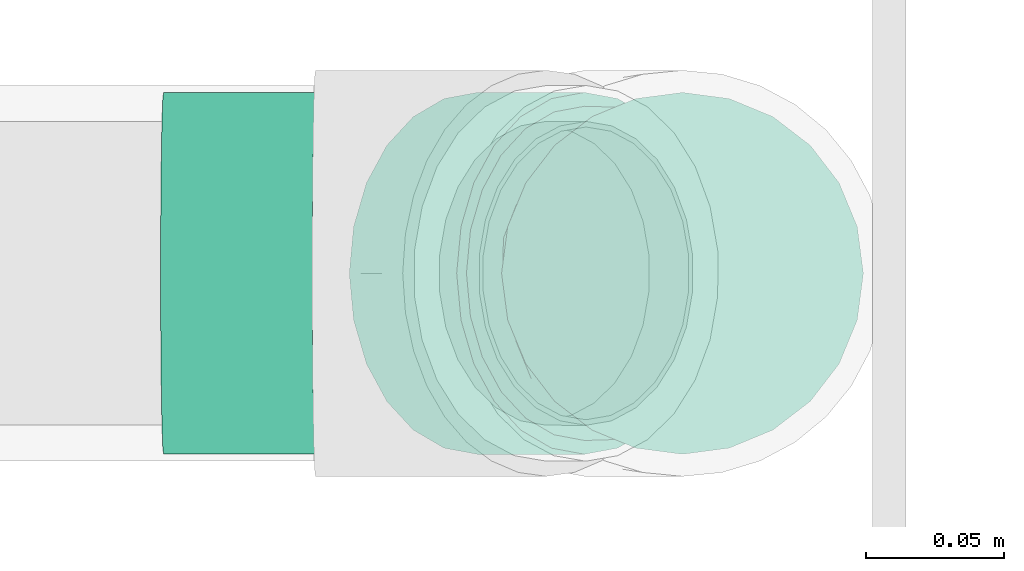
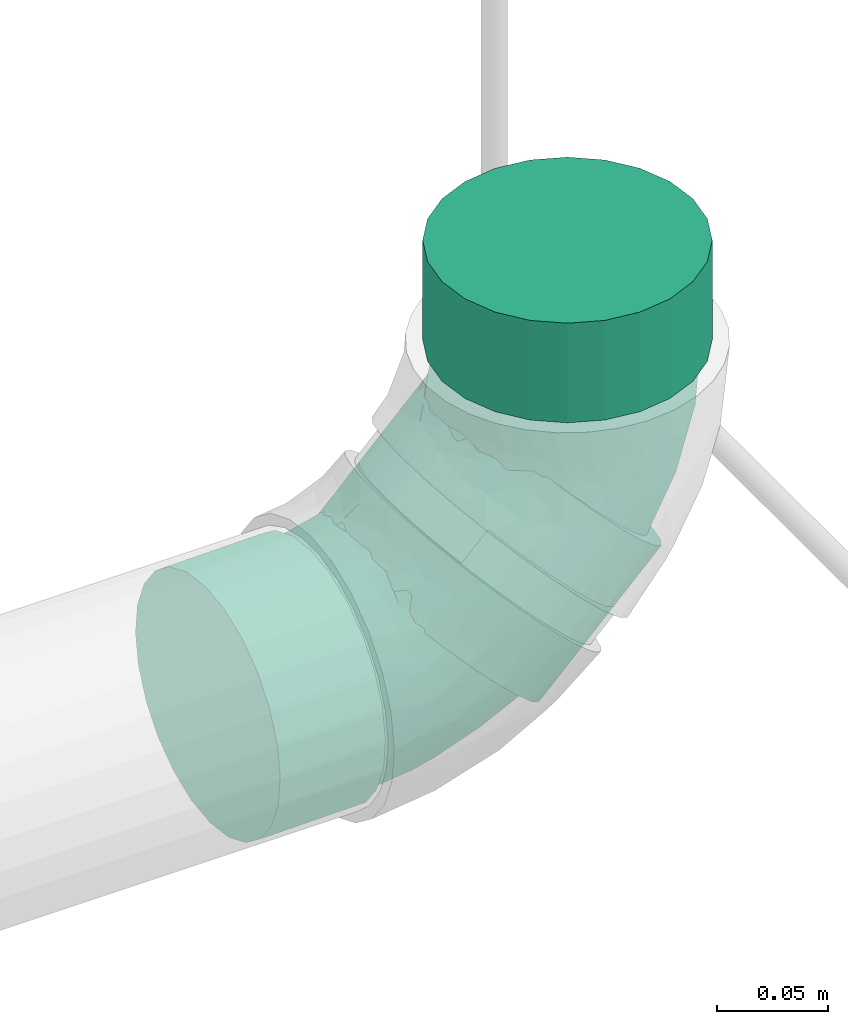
# One storey, part 66 of 156: 2 flow fittings.
"""IFC2X3 building model written with IfcOpenShell, lengths in millimetres."""

from ifc_helpers import new_model, entity, si_unit, converted_unit, derived_unit, direction, frame, origin_with_axes, place, context, subcontext, project, spatial, open_shell, surface_model, source, transform, mapped, type_object, element, save


model = new_model("IFC2X3")

# Units and contexts
model_context = context("Model", 3, precision=0.01, world=frame((0.0, 4.29681676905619e-09, 0.0)), true_north=direction((4.01073788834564e-13, 1.0)))
plan_context = context("Plan", 3, precision=0.01, world=frame((0.0, 4.29681676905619e-09, 0.0)), true_north=direction((4.01073788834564e-13, 1.0)))
body_context = subcontext(model_context, "Body", "Model", "MODEL_VIEW")
ifc_project = project(units=[converted_unit("PLANEANGLEUNIT", "DEGREE", entity("IfcPositiveLengthMeasure", 0.0174532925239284), si_unit("PLANEANGLEUNIT", "RADIAN"), dimensions=[0, 0, 0, 0, 0, 0, 0]), si_unit("AREAUNIT", "SQUARE_METRE"), si_unit("LENGTHUNIT", "METRE", prefix="MILLI"), si_unit("MASSUNIT", "GRAM", prefix="KILO"), si_unit("POWERUNIT", "WATT"), si_unit("PRESSUREUNIT", "PASCAL", prefix="KILO"), si_unit("FORCEUNIT", "NEWTON", prefix="KILO"), si_unit("ELECTRICVOLTAGEUNIT", "VOLT"), si_unit("ELECTRICCURRENTUNIT", "AMPERE"), si_unit("THERMODYNAMICTEMPERATUREUNIT", "DEGREE_CELSIUS"), si_unit("TIMEUNIT", "SECOND"), si_unit("VOLUMEUNIT", "CUBIC_METRE"), derived_unit("LINEARVELOCITYUNIT", [(si_unit("LENGTHUNIT", "METRE"), 1), (si_unit("TIMEUNIT", "SECOND"), -1)]), derived_unit("VOLUMETRICFLOWRATEUNIT", [(si_unit("VOLUMEUNIT", "CUBIC_METRE"), 1), (si_unit("TIMEUNIT", "SECOND"), -1)]), derived_unit("THERMALTRANSMITTANCEUNIT", [(si_unit("POWERUNIT", "WATT"), 1), (si_unit("THERMODYNAMICTEMPERATUREUNIT", "KELVIN"), -1), (si_unit("AREAUNIT", "SQUARE_METRE"), -1)]), derived_unit("SOUNDPRESSUREUNIT", [(si_unit("PRESSUREUNIT", "PASCAL"), 1)])], contexts=[model_context, plan_context])

# Site, building, storey
site_placement = place(None, frame((0.0, -4.29681676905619e-09, 0.0), z_axis=(0.0, 0.0, 1.0), x_axis=(1.0, 0.0, 0.0)))
site = spatial("IfcSite", under=ifc_project, at=site_placement, CompositionType="ELEMENT")
building_placement = place(site_placement, frame((0.0, 4.29681676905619e-09, 0.0), z_axis=(0.0, 0.0, 1.0), x_axis=(1.0, 0.0, 0.0)))
building = spatial("IfcBuilding", under=site, at=building_placement, Name="mc-building", CompositionType="ELEMENT")
storey_placement = place(building_placement, frame((0.0, 0.0, 205200.0), z_axis=(0.0, 0.0, 1.0), x_axis=(1.0, 0.0, 0.0)))
storey = spatial("IfcBuildingStorey", under=building, at=storey_placement, Name="Nivå D + 1,2 m", CompositionType="ELEMENT", Elevation=205200.0)

# Flow fittings
pipe_fitting_type = type_object("IfcPipeFittingType", Name="magi_sewer_bend_001", PredefinedType="BEND")
shared_shape_1 = source(origin_with_axes(), body_context, "Body", "SurfaceModel", [
    surface_model("IfcShellBasedSurfaceModel", [(-105.11984, -63.26814, -16.95265), (-105.11984, -16.95265, -63.26814), (-105.11984, -32.75, -56.72466), (-105.11984, -56.72466, -32.75), (-105.11984, -46.3155, -46.3155), (-105.11984, 46.3155, -46.3155), (-105.11984, -65.5, 0.0), (-105.11984, 32.75, -56.72466), (-105.11984, 16.95265, -63.26814), (-105.11984, 0.0, -65.5), (-105.11984, 63.26814, -16.95265), (-105.11984, 56.72466, -32.75), (-105.11984, -63.26814, 16.95265), (-105.11984, -56.72466, 32.75), (-105.11984, -46.3155, 46.3155), (-105.11984, 65.5, 0.0), (-105.11984, -16.95265, 63.26814), (-105.11984, -32.75, 56.72466), (-105.11984, 16.95265, 63.26814), (-105.11984, 0.0, 65.5), (-105.11984, 56.72466, 32.75), (-105.11984, 63.26814, 16.95265), (-105.11984, 46.3155, 46.3155), (-105.11984, 32.75, 56.72466), (-50.11984, -16.95265, 63.26814), (-50.11984, 16.95265, 63.26814), (-50.11984, 0.0, 65.5), (-50.11984, -46.3155, 46.3155), (-50.11984, -32.75, 56.72466), (-50.11984, -56.72466, 32.75), (-50.11984, -63.26814, 16.95265), (-50.11984, 65.5, 0.0), (-50.11984, 46.3155, 46.3155), (-50.11984, 32.75, 56.72466), (-50.11984, 56.72466, 32.75), (-50.11984, 63.26814, 16.95265), (-50.11984, -63.26814, -16.95265), (-50.11984, -16.95265, -63.26814), (-50.11984, -56.72466, -32.75), (-50.11984, -32.75, -56.72466), (-50.11984, -46.3155, -46.3155), (-50.11984, 46.3155, -46.3155), (-50.11984, 63.26814, -16.95265), (-50.11984, 56.72466, -32.75), (-50.11984, 32.75, -56.72466), (-50.11984, 16.95265, -63.26814), (-50.11984, 0.0, -65.5), (-50.11984, -65.5, 0.0), (29.59362, 119.06829, 16.95265), (34.22056, 114.44134, 32.75), (41.58095, 107.08095, 46.3155), (51.17321, 97.4887, 56.72466), (28.01546, 120.64645, 0.0), (62.34362, 86.31829, 63.26814), (74.33095, 74.33095, -65.5), (34.22056, 114.44134, -32.75), (29.59362, 119.06829, -16.95265), (41.58095, 107.08095, -46.3155), (62.34362, 86.31829, -63.26814), (51.17321, 97.4887, -56.72466), (74.33095, 74.33095, 65.5), (107.08095, 41.58095, -46.3155), (86.31829, 62.34362, 63.26814), (97.4887, 51.17321, 56.72466), (107.08095, 41.58095, 46.3155), (120.64645, 28.01546, 0.0), (114.44134, 34.22056, 32.75), (119.06829, 29.59362, 16.95265), (97.4887, 51.17321, -56.72466), (86.31829, 62.34362, -63.26814), (119.06829, 29.59362, -16.95265), (114.44134, 34.22056, -32.75), (81.75557, -10.87541, 0.0), (80.17741, -9.29725, 16.95265), (75.55048, -4.67032, 32.75), (68.19008, 2.69008, 46.3155), (58.59783, 12.28233, 56.72466), (47.42741, 23.45275, 63.26814), (23.45275, 47.42741, -63.26814), (35.44008, 35.44008, -65.5), (80.17741, -9.29725, -16.95265), (68.19008, 2.69008, -46.3155), (75.55048, -4.67032, -32.75), (58.59783, 12.28233, -56.72466), (47.42741, 23.45275, -63.26814), (23.45275, 47.42741, 63.26814), (12.28233, 58.59783, 56.72466), (2.69008, 68.19008, 46.3155), (-4.67032, 75.55048, 32.75), (-9.29725, 80.17741, 16.95265), (-10.87541, 81.75557, 0.0), (2.69008, 68.19008, -46.3155), (12.28233, 58.59783, -56.72466), (-9.29725, 80.17741, -16.95265), (-4.67032, 75.55048, -32.75), (35.44008, 35.44008, 65.5), (-50.11984, 30.25, -52.39454), (-50.11984, 15.65855, -58.43851), (-50.11984, 0.0, -60.5), (-50.11984, 42.77996, -42.77996), (-50.11984, 58.43851, -15.65855), (-50.11984, 52.39454, -30.25), (-50.11984, -60.5, 0.0), (-50.11984, -42.77996, -42.77996), (-50.11984, -52.39454, -30.25), (-50.11984, -30.25, -52.39454), (-50.11984, -15.65855, -58.43851), (-50.11984, -58.43851, -15.65855), (-50.11984, -42.77996, 42.77996), (-50.11984, 58.43851, 15.65855), (-50.11984, 52.39454, 30.25), (-50.11984, 15.65855, 58.43851), (-50.11984, 30.25, 52.39454), (-50.11984, 42.77996, 42.77996), (-50.11984, -30.25, 52.39454), (-50.11984, -58.43851, 15.65855), (-50.11984, -52.39454, 30.25), (-50.11984, -15.65855, 58.43851), (-50.11984, 0.0, 60.5), (-50.11984, 60.5, 0.0), (35.44008, 35.44008, -60.5), (24.36781, 46.51235, -58.43851), (14.0501, 56.83006, -52.39454), (-5.88219, 76.76235, -15.65855), (5.19008, 65.69008, -42.77996), (-1.60845, 72.48861, -30.25), (46.51235, 24.36781, -58.43851), (65.69008, 5.19008, 42.77996), (56.83006, 14.0501, -52.39454), (72.48861, -1.60845, -30.25), (65.69008, 5.19008, -42.77996), (78.22004, -7.33988, 0.0), (76.76235, -5.88219, -15.65855), (-5.88219, 76.76235, 15.65855), (24.36781, 46.51235, 58.43851), (5.19008, 65.69008, 42.77996), (-1.60845, 72.48861, 30.25), (14.0501, 56.83006, 52.39454), (76.76235, -5.88219, 15.65855), (72.48861, -1.60845, 30.25), (56.83006, 14.0501, 52.39454), (35.44008, 35.44008, 60.5), (46.51235, 24.36781, 58.43851), (-7.33988, 78.22004, 0.0), (15.40898, -37.20057, 33.71482), (-13.38469, -34.19321, 46.68416), (-19.53618, -46.27104, 35.42508), (-20.21421, -56.56285, 0.0), (-3.14418, -54.31554, 0.0), (-12.91334, -55.73755, 10.33096), (46.53273, -18.9044, 35.42508), (-23.97238, -22.18485, 55.29389), (6.21199, -14.99708, 54.53161), (1.79579, 36.37132, 56.46814), (10.937, 28.63799, 59.62004), (-18.05654, -5.82509, 59.69848), (-5.75437, 13.89228, 60.2874), (-30.31328, 8.38356, 60.13285), (-17.18515, 41.48861, 49.39252), (-26.68033, 50.73817, 38.17957), (32.63809, 1.26397, 55.29389), (-23.24601, 25.1757, 56.55898), (23.34807, -39.59646, 23.84351), (-10.84785, -52.34167, 21.0101), (18.78371, -45.3479, 13.14971), (-24.92328, 60.17012, 24.85601), (48.54351, -30.28129, 10.33096), (54.28958, -25.70237, 0.0), (-24.23293, 64.82746, 12.71177), (44.68174, -29.34056, 21.0101), (16.88687, 8.64894, 59.69848), (33.64265, -14.71385, 46.68416), (-26.96749, 65.10529, 0.0), (10.1548, -24.51586, 48.24539), (18.74299, -45.24957, 0.0), (40.63016, -36.18361, 0.0), (-18.05654, -5.82509, -59.69848), (-12.91334, -55.73755, -10.33096), (18.78371, -45.3479, -13.1497), (16.88687, 8.64894, -59.69848), (-26.98822, 24.44859, -56.46814), (-27.98374, 12.51649, -59.62004), (-17.01146, 54.74315, -38.17957), (33.64265, -14.71385, -46.68416), (-24.92328, 60.17012, -24.85601), (44.68174, -29.34056, -21.0101), (-28.70466, 62.9752, -12.71176), (-1.3645, 34.23932, -56.55898), (-10.84785, -52.34167, -21.0101), (-17.18515, 41.48861, -49.39253), (-19.53618, -46.27104, -35.42508), (-13.38469, -34.19321, -46.68416), (10.1548, -24.51586, -48.24539), (15.40898, -37.20057, -33.71482), (-23.97238, -22.18485, -55.29389), (32.63809, 1.26397, -55.29389), (6.21199, -14.99708, -54.53161), (48.54351, -30.28129, -10.33096), (15.50665, 27.3628, -60.13285), (11.48935, -44.50851, -23.84351), (46.53273, -18.9044, -35.42508), (-5.75437, 13.89228, -60.2874)], [open_shell([[[0, 1, 2]], [[3, 2, 4]], [[1, 0, 5]], [[0, 2, 3]], [[5, 0, 6]], [[1, 7, 8]], [[8, 9, 1]], [[5, 10, 11]], [[1, 5, 7]], [[6, 10, 5]], [[6, 12, 10]], [[12, 13, 14]], [[10, 14, 15]], [[15, 14, 16]], [[16, 14, 17]], [[18, 16, 19]], [[15, 20, 21]], [[20, 15, 22]], [[22, 18, 23]], [[18, 22, 15]], [[15, 16, 18]], [[14, 10, 12]], [[24, 25, 26]], [[27, 24, 28]], [[27, 29, 30]], [[24, 27, 31]], [[30, 31, 27]], [[25, 32, 33]], [[25, 24, 32]], [[34, 31, 35]], [[31, 34, 32]], [[24, 31, 32]], [[30, 36, 31]], [[31, 36, 37]], [[37, 36, 38]], [[39, 37, 38]], [[39, 38, 40]], [[37, 41, 31]], [[42, 41, 43]], [[31, 41, 42]], [[37, 44, 41]], [[37, 45, 44]], [[46, 45, 37]], [[36, 30, 47]], [[42, 10, 31]], [[43, 11, 42]], [[45, 46, 8]], [[41, 5, 43]], [[42, 11, 10]], [[10, 15, 31]], [[7, 44, 8]], [[7, 5, 41]], [[44, 45, 8]], [[5, 11, 43]], [[41, 44, 7]], [[46, 9, 8]], [[1, 37, 39]], [[40, 2, 39]], [[3, 38, 36]], [[40, 38, 4]], [[0, 36, 47]], [[37, 1, 9]], [[39, 2, 1]], [[40, 4, 2]], [[38, 3, 4]], [[0, 3, 36]], [[47, 6, 0]], [[37, 9, 46]], [[30, 12, 47]], [[29, 13, 30]], [[28, 17, 27]], [[27, 14, 29]], [[30, 13, 12]], [[12, 6, 47]], [[19, 16, 24]], [[16, 17, 28]], [[14, 27, 17]], [[14, 13, 29]], [[24, 16, 28]], [[24, 26, 19]], [[18, 25, 33]], [[32, 23, 33]], [[20, 34, 35]], [[32, 34, 22]], [[21, 35, 31]], [[25, 18, 19]], [[33, 23, 18]], [[32, 22, 23]], [[34, 20, 22]], [[21, 20, 35]], [[31, 15, 21]], [[25, 19, 26]], [[48, 49, 50]], [[48, 50, 51]], [[52, 51, 53]], [[51, 52, 48]], [[53, 54, 52]], [[52, 55, 56]], [[55, 52, 57]], [[57, 58, 59]], [[58, 57, 52]], [[58, 52, 54]], [[53, 60, 61]], [[62, 63, 64]], [[62, 64, 65]], [[66, 67, 65]], [[66, 65, 64]], [[62, 65, 61]], [[54, 68, 69]], [[68, 54, 61]], [[61, 70, 71]], [[54, 53, 61]], [[65, 70, 61]], [[61, 60, 62]], [[72, 73, 74]], [[72, 74, 75]], [[75, 76, 77]], [[72, 75, 78]], [[79, 72, 78]], [[80, 81, 82]], [[80, 72, 81]], [[83, 79, 84]], [[81, 72, 83]], [[72, 79, 83]], [[78, 75, 77]], [[78, 77, 85]], [[86, 78, 85]], [[87, 88, 89]], [[86, 87, 90]], [[87, 89, 90]], [[78, 91, 92]], [[91, 78, 93]], [[91, 93, 94]], [[93, 78, 90]], [[78, 86, 90]], [[85, 77, 95]], [[78, 58, 79]], [[92, 59, 78]], [[93, 90, 56]], [[91, 57, 92]], [[78, 59, 58]], [[58, 54, 79]], [[55, 94, 56]], [[55, 57, 91]], [[94, 93, 56]], [[57, 59, 92]], [[91, 94, 55]], [[90, 52, 56]], [[48, 89, 88]], [[87, 49, 88]], [[51, 86, 85]], [[87, 86, 50]], [[53, 85, 95]], [[89, 48, 52]], [[88, 49, 48]], [[87, 50, 49]], [[86, 51, 50]], [[53, 51, 85]], [[95, 60, 53]], [[89, 52, 90]], [[77, 62, 95]], [[76, 63, 77]], [[74, 66, 75]], [[75, 64, 76]], [[77, 63, 62]], [[62, 60, 95]], [[65, 67, 73]], [[67, 66, 74]], [[64, 75, 66]], [[64, 63, 76]], [[73, 67, 74]], [[73, 72, 65]], [[70, 80, 82]], [[81, 71, 82]], [[68, 83, 84]], [[81, 83, 61]], [[69, 84, 79]], [[80, 70, 65]], [[82, 71, 70]], [[81, 61, 71]], [[83, 68, 61]], [[69, 68, 84]], [[79, 54, 69]], [[80, 65, 72]], [[96, 97, 98]], [[99, 96, 98]], [[100, 101, 99]], [[98, 100, 99]], [[102, 100, 98]], [[103, 104, 105]], [[106, 105, 104]], [[107, 102, 104]], [[98, 106, 104]], [[104, 102, 98]], [[102, 108, 100]], [[108, 109, 100]], [[109, 108, 110]], [[111, 112, 113]], [[110, 111, 113]], [[110, 114, 111]], [[115, 116, 102]], [[102, 116, 108]], [[117, 118, 114]], [[110, 108, 114]], [[111, 114, 118]], [[119, 100, 109]], [[120, 121, 122]], [[120, 122, 123]], [[124, 125, 123]], [[124, 123, 122]], [[126, 120, 127]], [[128, 129, 130]], [[129, 128, 126]], [[129, 131, 132]], [[127, 129, 126]], [[129, 127, 131]], [[123, 127, 120]], [[133, 134, 123]], [[135, 133, 136]], [[135, 137, 134]], [[135, 134, 133]], [[123, 134, 127]], [[138, 127, 139]], [[131, 127, 138]], [[140, 141, 142]], [[140, 127, 134]], [[141, 140, 134]], [[133, 123, 143]], [[144, 145, 146]], [[147, 148, 149]], [[114, 108, 145]], [[139, 127, 150]], [[151, 145, 152]], [[146, 145, 108]], [[134, 153, 154]], [[117, 114, 151]], [[155, 156, 157]], [[118, 117, 155]], [[113, 158, 159]], [[140, 142, 160]], [[157, 111, 118]], [[112, 161, 158]], [[115, 147, 149]], [[137, 135, 158]], [[162, 163, 164]], [[158, 113, 112]], [[108, 116, 146]], [[110, 159, 165]], [[109, 110, 165]], [[138, 166, 167]], [[168, 119, 109]], [[169, 162, 164]], [[163, 149, 164]], [[112, 111, 161]], [[141, 154, 170]], [[127, 140, 171]], [[136, 133, 165]], [[170, 142, 141]], [[144, 146, 163]], [[127, 171, 150]], [[156, 154, 153]], [[171, 140, 160]], [[116, 163, 146]], [[166, 138, 169]], [[144, 150, 171]], [[157, 161, 111]], [[144, 162, 150]], [[109, 165, 168]], [[116, 115, 163]], [[172, 168, 143]], [[145, 173, 152]], [[133, 168, 165]], [[152, 170, 155]], [[136, 165, 159]], [[152, 160, 170]], [[136, 159, 135]], [[156, 155, 170]], [[134, 137, 153]], [[153, 158, 161]], [[151, 155, 117]], [[110, 113, 159]], [[169, 138, 139]], [[169, 139, 150]], [[173, 144, 171]], [[135, 159, 158]], [[158, 153, 137]], [[156, 153, 161]], [[145, 151, 114]], [[155, 151, 152]], [[170, 160, 142]], [[171, 160, 152]], [[115, 102, 147]], [[164, 148, 174]], [[115, 149, 163]], [[148, 164, 149]], [[166, 164, 175]], [[167, 166, 175]], [[167, 131, 138]], [[164, 166, 169]], [[170, 154, 156]], [[141, 134, 154]], [[155, 157, 118]], [[161, 157, 156]], [[144, 173, 145]], [[171, 152, 173]], [[143, 168, 133]], [[168, 172, 119]], [[150, 162, 169]], [[163, 162, 144]], [[175, 164, 174]], [[106, 98, 176]], [[148, 177, 178]], [[120, 126, 179]], [[180, 181, 97]], [[101, 182, 99]], [[128, 130, 183]], [[184, 182, 101]], [[129, 132, 185]], [[100, 186, 184]], [[122, 121, 187]], [[107, 177, 147]], [[96, 180, 97]], [[177, 107, 188]], [[124, 189, 182]], [[188, 104, 190]], [[190, 103, 191]], [[103, 105, 191]], [[192, 193, 191]], [[107, 104, 188]], [[103, 190, 104]], [[194, 105, 106]], [[195, 179, 126]], [[123, 125, 184]], [[196, 194, 176]], [[119, 172, 186]], [[193, 190, 191]], [[143, 123, 186]], [[196, 176, 179]], [[124, 122, 189]], [[184, 101, 100]], [[125, 182, 184]], [[194, 191, 105]], [[187, 189, 122]], [[181, 176, 98]], [[189, 187, 180]], [[99, 189, 96]], [[132, 167, 197]], [[198, 121, 120]], [[195, 126, 128]], [[199, 185, 178]], [[130, 200, 183]], [[196, 195, 183]], [[130, 129, 200]], [[201, 198, 179]], [[200, 193, 183]], [[201, 179, 176]], [[197, 167, 175]], [[198, 187, 121]], [[201, 181, 180]], [[177, 188, 178]], [[193, 199, 190]], [[183, 192, 196]], [[129, 185, 200]], [[123, 184, 186]], [[193, 200, 185]], [[125, 124, 182]], [[99, 182, 189]], [[189, 180, 96]], [[201, 180, 187]], [[176, 194, 106]], [[191, 194, 196]], [[183, 195, 128]], [[179, 195, 196]], [[147, 177, 148]], [[147, 102, 107]], [[199, 178, 188]], [[197, 178, 185]], [[178, 175, 174]], [[132, 131, 167]], [[178, 197, 175]], [[132, 197, 185]], [[176, 181, 201]], [[98, 97, 181]], [[179, 198, 120]], [[187, 198, 201]], [[193, 192, 183]], [[191, 196, 192]], [[119, 186, 100]], [[186, 172, 143]], [[190, 199, 188]], [[185, 199, 193]], [[148, 178, 174]]])]),
])
flow_fitting_1_placement = place(storey_placement, frame((328906.4829, 462815.28789, 4313.43687000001), z_axis=(0.0, -1.0, 0.0), x_axis=(0.707106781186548, 0.0, 0.707106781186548)))
element("IfcFlowFitting", 1, at=flow_fitting_1_placement, inside=storey, type_object=pipe_fitting_type, Name="magi_sewer_bend_001", context=body_context, shape_type="MappedRepresentation", body=[
    mapped(shared_shape_1, transform((0.0, 0.0, 0.0), scale=1.0)),
])
shared_shape_2 = source(origin_with_axes(), body_context, "Body", "SurfaceModel", [
    surface_model("IfcShellBasedSurfaceModel", [(-103.94265, -16.95265, -63.26814), (-103.94265, -32.75, -56.72466), (-103.94265, -46.3155, -46.3155), (-103.94265, -63.26814, -16.95265), (-103.94265, 56.72466, -32.75), (-103.94265, 65.5, 0.0), (-103.94265, -56.72466, -32.75), (-103.94265, 16.95265, -63.26814), (-103.94265, 46.3155, -46.3155), (-103.94265, 32.75, -56.72466), (-103.94265, 0.0, -65.5), (-103.94265, 63.26814, -16.95265), (-103.94265, -65.5, 0.0), (-103.94265, -63.26814, 16.95265), (-103.94265, -56.72466, 32.75), (-103.94265, -46.3155, 46.3155), (-103.94265, -16.95265, 63.26814), (-103.94265, 0.0, 65.5), (-103.94265, -32.75, 56.72466), (-103.94265, 63.26814, 16.95265), (-103.94265, 46.3155, 46.3155), (-103.94265, 56.72466, 32.75), (-103.94265, 16.95265, 63.26814), (-103.94265, 32.75, 56.72466), (-48.94265, -16.95265, 63.26814), (-48.94265, 16.95265, 63.26814), (-48.94265, 0.0, 65.5), (-48.94265, -46.3155, 46.3155), (-48.94265, -32.75, 56.72466), (-48.94265, -56.72466, 32.75), (-48.94265, -63.26814, 16.95265), (-48.94265, 46.3155, 46.3155), (-48.94265, 32.75, 56.72466), (-48.94265, 63.26814, 16.95265), (-48.94265, 56.72466, 32.75), (-48.94265, 63.26814, -16.95265), (-48.94265, 65.5, 0.0), (-48.94265, -63.26814, -16.95265), (-48.94265, 32.75, -56.72466), (-48.94265, -65.5, 0.0), (-48.94265, -16.95265, -63.26814), (-48.94265, -56.72466, -32.75), (-48.94265, -46.3155, -46.3155), (-48.94265, -32.75, -56.72466), (-48.94265, 0.0, -65.5), (-48.94265, 46.3155, -46.3155), (-48.94265, 56.72466, -32.75), (-48.94265, 16.95265, -63.26814), (35.27674, 113.03678, 32.75), (29.17591, 119.34442, 0.0), (30.72755, 117.74018, 16.95265), (42.51346, 105.55475, 46.3155), (35.27674, 113.03678, -32.75), (62.92725, 84.44897, 63.26814), (51.94453, 95.80398, 56.72466), (42.51346, 105.55475, -46.3155), (106.91285, 38.97233, 46.3155), (30.72755, 117.74018, -16.95265), (51.94453, 95.80398, -56.72466), (74.71315, 72.26354, -65.5), (62.92725, 84.44897, -63.26814), (86.49906, 60.07811, -63.26814), (74.71315, 72.26354, 65.5), (86.49906, 60.07811, 63.26814), (97.48178, 48.7231, 56.72466), (118.69875, 26.7869, 16.95265), (120.2504, 25.18266, 0.0), (114.14956, 31.4903, 32.75), (106.91285, 38.97233, -46.3155), (97.48178, 48.7231, -56.72466), (114.14956, 31.4903, -32.75), (118.69875, 26.7869, -16.95265), (79.16519, -11.45048, 16.95265), (46.9655, 21.84073, -63.26814), (80.71683, -13.05472, 0.0), (67.37929, 0.73495, 46.3155), (74.616, -6.74708, 32.75), (57.94821, 10.48572, 56.72466), (46.9655, 21.84073, 63.26814), (67.37929, 0.73495, -46.3155), (74.616, -6.74708, -32.75), (79.16519, -11.45048, -16.95265), (57.94821, 10.48572, -56.72466), (12.41097, 57.5666, -56.72466), (35.17959, 34.02616, -65.5), (35.17959, 34.02616, 65.5), (23.39368, 46.21159, 63.26814), (-4.25682, 74.7994, -32.75), (2.97989, 67.31737, 46.3155), (12.41097, 57.5666, 56.72466), (-4.25682, 74.7994, 32.75), (-8.80601, 79.5028, 16.95265), (-10.35766, 81.10704, 0.0), (2.97989, 67.31737, -46.3155), (23.39368, 46.21159, -63.26814), (-8.80601, 79.5028, -16.95265), (-48.94265, 15.65855, -58.43851), (-48.94265, 0.0, -60.5), (-48.94265, 58.43851, -15.65855), (-48.94265, 30.25, -52.39454), (-48.94265, 52.39454, -30.25), (-48.94265, 42.77996, -42.77996), (-48.94265, -60.5, 0.0), (-48.94265, -30.25, -52.39454), (-48.94265, -42.77996, -42.77996), (-48.94265, -15.65855, -58.43851), (-48.94265, -58.43851, -15.65855), (-48.94265, -52.39454, -30.25), (-48.94265, -58.43851, 15.65855), (-48.94265, 58.43851, 15.65855), (-48.94265, 52.39454, 30.25), (-48.94265, 42.77996, 42.77996), (-48.94265, 30.25, 52.39454), (-48.94265, 15.65855, 58.43851), (-48.94265, -52.39454, 30.25), (-48.94265, -42.77996, 42.77996), (-48.94265, -30.25, 52.39454), (-48.94265, -15.65855, 58.43851), (-48.94265, 0.0, 60.5), (-48.94265, 60.5, 0.0), (35.17959, 34.02616, -60.5), (75.80751, -7.97898, 15.65855), (46.06581, 22.77092, -58.43851), (5.43789, 64.77606, -42.77996), (24.29337, 45.2814, -58.43851), (14.14903, 55.76962, -52.39454), (-5.44833, 76.0313, 15.65855), (-1.24641, 71.68694, -30.25), (64.92129, 3.27626, -42.77996), (56.21015, 12.2827, -52.39454), (71.60559, -3.63462, -30.25), (77.24071, -9.46076, 0.0), (75.80751, -7.97898, -15.65855), (-5.44833, 76.0313, -15.65855), (-6.88153, 77.51308, 0.0), (14.14903, 55.76962, 52.39454), (5.43789, 64.77606, 42.77996), (-1.24641, 71.68694, 30.25), (24.29337, 45.2814, 58.43851), (64.92129, 3.27626, 42.77996), (71.60559, -3.63462, 30.25), (56.21015, 12.2827, 52.39454), (35.17959, 34.02616, 60.5), (46.06581, 22.77092, 58.43851), (-18.46318, -46.26504, 35.45913), (-10.23352, -52.43952, 21.0856), (15.23197, -37.65772, 33.84843), (-19.02261, -56.64547, 0.0), (-2.9416, -54.57378, 0.0), (-12.20276, -55.82035, 10.41413), (-12.67502, -34.24752, 46.72874), (45.4358, -20.41888, 35.45913), (-23.47031, -22.24137, 55.32232), (6.2066, -15.34446, 54.59221), (10.69173, 28.01752, 59.57528), (-17.21218, -5.84799, 59.70815), (-5.51584, 13.63671, 60.27728), (-29.6842, 8.34878, 60.12625), (-16.70183, 41.29161, 49.33546), (-25.55225, 50.74772, 38.14933), (32.33303, 0.33023, 55.32232), (-22.25613, 25.17126, 56.54143), (22.61414, -40.36658, 24.0355), (18.55127, -45.86397, 13.40048), (-24.26582, 59.99192, 24.78494), (47.57895, -31.63956, 10.41413), (53.05465, -27.49132, 0.0), (-23.89358, 64.45781, 12.67367), (43.81305, -30.57851, 21.0856), (16.43765, 7.76285, 59.70815), (32.92044, -15.80486, 46.72874), (2.20786, 35.99917, 56.4376), (-26.25685, 64.91431, 0.0), (9.98357, -24.68219, 48.51338), (18.55693, -45.87795, 0.0), (40.05546, -37.18213, 0.0), (-17.21218, -5.84799, -59.70815), (-12.20276, -55.82035, -10.41413), (18.55127, -45.86397, -13.40048), (16.43765, 7.76285, -59.70815), (-27.16362, 12.70561, -59.57528), (-16.91434, 54.24162, -38.14933), (32.92044, -15.80486, -46.72874), (-24.26582, 59.99192, -24.78494), (43.81305, -30.57851, -21.0856), (-27.63817, 62.94317, -12.67367), (-1.50216, 33.56592, -56.54143), (-26.61452, 24.34095, -56.4376), (-10.23352, -52.43952, -21.0856), (-16.70183, 41.29161, -49.33546), (45.4358, -20.41888, -35.45913), (15.23197, -37.65772, -33.84843), (-18.46318, -46.26504, -35.45913), (-12.67502, -34.24752, -46.72874), (9.98357, -24.68219, -48.51337), (-23.47031, -22.24137, -55.32232), (32.33303, 0.33023, -55.32232), (6.2066, -15.34446, -54.59221), (47.57895, -31.63956, -10.41413), (15.53248, 26.63824, -60.12625), (11.809, -44.73709, -24.03549), (-5.51584, 13.63671, -60.27728)], [open_shell([[[0, 1, 2]], [[0, 2, 3]], [[4, 0, 5]], [[3, 2, 6]], [[3, 5, 0]], [[7, 8, 9]], [[8, 7, 10]], [[0, 8, 10]], [[0, 4, 8]], [[4, 5, 11]], [[5, 3, 12]], [[13, 14, 15]], [[5, 13, 15]], [[16, 17, 15]], [[16, 15, 18]], [[5, 15, 17]], [[19, 20, 21]], [[22, 19, 5]], [[20, 22, 23]], [[22, 20, 19]], [[5, 17, 22]], [[13, 5, 12]], [[24, 25, 26]], [[27, 24, 28]], [[27, 29, 30]], [[24, 27, 25]], [[30, 25, 27]], [[25, 31, 32]], [[31, 25, 33]], [[31, 33, 34]], [[25, 30, 33]], [[33, 35, 36]], [[33, 30, 35]], [[37, 38, 39]], [[40, 37, 41]], [[42, 43, 40]], [[42, 40, 41]], [[44, 37, 40]], [[39, 45, 46]], [[46, 35, 39]], [[38, 44, 47]], [[38, 45, 39]], [[38, 37, 44]], [[39, 35, 30]], [[35, 11, 36]], [[46, 4, 35]], [[47, 44, 7]], [[45, 8, 46]], [[35, 4, 11]], [[11, 5, 36]], [[9, 38, 7]], [[9, 8, 45]], [[38, 47, 7]], [[8, 4, 46]], [[45, 38, 9]], [[44, 10, 7]], [[0, 40, 43]], [[42, 1, 43]], [[6, 41, 37]], [[42, 41, 2]], [[3, 37, 39]], [[40, 0, 10]], [[43, 1, 0]], [[42, 2, 1]], [[41, 6, 2]], [[3, 6, 37]], [[39, 12, 3]], [[40, 10, 44]], [[30, 13, 39]], [[29, 14, 30]], [[28, 18, 27]], [[27, 15, 29]], [[30, 14, 13]], [[13, 12, 39]], [[17, 16, 24]], [[16, 18, 28]], [[15, 27, 18]], [[15, 14, 29]], [[24, 16, 28]], [[24, 26, 17]], [[22, 25, 32]], [[31, 23, 32]], [[21, 34, 33]], [[31, 34, 20]], [[19, 33, 36]], [[25, 22, 17]], [[32, 23, 22]], [[31, 20, 23]], [[34, 21, 20]], [[19, 21, 33]], [[36, 5, 19]], [[25, 17, 26]], [[48, 49, 50]], [[51, 52, 48]], [[51, 53, 52]], [[53, 51, 54]], [[55, 53, 56]], [[48, 57, 49]], [[48, 52, 57]], [[58, 59, 60]], [[55, 52, 53]], [[55, 61, 58]], [[56, 53, 62]], [[63, 64, 56]], [[55, 56, 61]], [[65, 66, 56]], [[65, 56, 67]], [[68, 56, 66]], [[61, 68, 69]], [[59, 58, 61]], [[66, 70, 68]], [[68, 61, 56]], [[70, 66, 71]], [[62, 63, 56]], [[72, 73, 74]], [[75, 72, 76]], [[75, 77, 78]], [[72, 75, 73]], [[78, 73, 75]], [[74, 79, 80]], [[80, 81, 74]], [[79, 73, 82]], [[73, 79, 74]], [[73, 83, 84]], [[73, 78, 85]], [[86, 87, 85]], [[88, 86, 89]], [[88, 90, 91]], [[86, 88, 87]], [[91, 92, 88]], [[93, 83, 73]], [[94, 84, 83]], [[87, 92, 95]], [[93, 73, 87]], [[87, 88, 92]], [[85, 87, 73]], [[94, 60, 84]], [[83, 58, 94]], [[95, 92, 57]], [[93, 55, 83]], [[94, 58, 60]], [[60, 59, 84]], [[52, 87, 57]], [[52, 55, 93]], [[87, 95, 57]], [[55, 58, 83]], [[93, 87, 52]], [[92, 49, 57]], [[50, 91, 90]], [[88, 48, 90]], [[54, 89, 86]], [[88, 89, 51]], [[53, 86, 85]], [[91, 50, 49]], [[90, 48, 50]], [[88, 51, 48]], [[89, 54, 51]], [[53, 54, 86]], [[85, 62, 53]], [[91, 49, 92]], [[78, 63, 85]], [[77, 64, 78]], [[76, 67, 75]], [[75, 56, 77]], [[78, 64, 63]], [[63, 62, 85]], [[66, 65, 72]], [[65, 67, 76]], [[56, 75, 67]], [[56, 64, 77]], [[72, 65, 76]], [[72, 74, 66]], [[71, 81, 80]], [[79, 70, 80]], [[69, 82, 73]], [[79, 82, 68]], [[61, 73, 84]], [[81, 71, 66]], [[80, 70, 71]], [[79, 68, 70]], [[82, 69, 68]], [[61, 69, 73]], [[84, 59, 61]], [[81, 66, 74]], [[96, 97, 98]], [[99, 96, 98]], [[98, 100, 101]], [[99, 98, 101]], [[102, 98, 97]], [[103, 104, 105]], [[104, 97, 105]], [[106, 102, 107]], [[104, 107, 102]], [[104, 102, 97]], [[102, 108, 98]], [[109, 98, 108]], [[110, 109, 111]], [[112, 109, 108]], [[111, 109, 112]], [[113, 112, 108]], [[114, 115, 108]], [[116, 108, 115]], [[117, 118, 116]], [[108, 116, 118]], [[118, 113, 108]], [[119, 98, 109]], [[120, 121, 122]], [[123, 124, 125]], [[126, 120, 124]], [[127, 124, 123]], [[127, 126, 124]], [[122, 128, 129]], [[128, 122, 121]], [[130, 131, 132]], [[131, 130, 128]], [[128, 121, 131]], [[127, 133, 134]], [[120, 126, 135]], [[136, 126, 137]], [[120, 135, 121]], [[135, 126, 136]], [[121, 135, 138]], [[121, 139, 140]], [[139, 121, 141]], [[141, 142, 143]], [[142, 141, 121]], [[121, 138, 142]], [[126, 127, 134]], [[144, 145, 146]], [[147, 148, 149]], [[116, 115, 150]], [[140, 139, 151]], [[152, 150, 153]], [[144, 115, 114]], [[138, 154, 142]], [[117, 116, 152]], [[155, 156, 157]], [[118, 117, 155]], [[111, 158, 159]], [[141, 143, 160]], [[157, 113, 118]], [[112, 161, 158]], [[108, 147, 149]], [[135, 136, 158]], [[162, 145, 163]], [[158, 111, 112]], [[144, 150, 115]], [[110, 159, 164]], [[109, 110, 164]], [[121, 165, 166]], [[167, 119, 109]], [[168, 162, 163]], [[145, 149, 163]], [[112, 113, 161]], [[142, 154, 169]], [[139, 141, 170]], [[137, 126, 164]], [[169, 143, 142]], [[150, 144, 146]], [[168, 140, 151]], [[171, 154, 138]], [[170, 141, 160]], [[145, 144, 114]], [[165, 121, 168]], [[170, 151, 139]], [[157, 161, 113]], [[151, 170, 146]], [[109, 164, 167]], [[114, 108, 145]], [[172, 167, 134]], [[150, 173, 153]], [[126, 167, 164]], [[153, 169, 155]], [[137, 164, 159]], [[153, 160, 169]], [[137, 159, 136]], [[156, 155, 169]], [[138, 135, 171]], [[171, 158, 161]], [[152, 155, 117]], [[110, 111, 159]], [[168, 121, 140]], [[151, 146, 162]], [[173, 146, 170]], [[136, 159, 158]], [[158, 171, 135]], [[156, 171, 161]], [[150, 152, 116]], [[155, 152, 153]], [[169, 160, 143]], [[170, 160, 153]], [[108, 102, 147]], [[163, 148, 174]], [[108, 149, 145]], [[148, 163, 149]], [[165, 163, 175]], [[166, 165, 175]], [[166, 131, 121]], [[163, 165, 168]], [[171, 156, 154]], [[154, 156, 169]], [[155, 157, 118]], [[161, 157, 156]], [[146, 173, 150]], [[170, 153, 173]], [[134, 167, 126]], [[167, 172, 119]], [[151, 162, 168]], [[145, 162, 146]], [[175, 163, 174]], [[105, 97, 176]], [[148, 177, 178]], [[120, 122, 179]], [[180, 97, 96]], [[100, 181, 101]], [[129, 128, 182]], [[183, 181, 100]], [[130, 132, 184]], [[98, 185, 183]], [[125, 124, 186]], [[106, 177, 147]], [[99, 187, 96]], [[177, 106, 188]], [[123, 189, 181]], [[182, 190, 191]], [[192, 188, 107]], [[104, 103, 193]], [[194, 191, 193]], [[106, 107, 188]], [[104, 192, 107]], [[195, 103, 105]], [[196, 179, 122]], [[133, 127, 183]], [[197, 195, 176]], [[119, 172, 185]], [[184, 190, 130]], [[134, 133, 185]], [[197, 176, 179]], [[123, 125, 189]], [[183, 100, 98]], [[127, 181, 183]], [[195, 193, 103]], [[186, 189, 125]], [[180, 176, 97]], [[189, 186, 187]], [[101, 189, 99]], [[132, 166, 198]], [[199, 124, 120]], [[196, 122, 129]], [[200, 184, 178]], [[130, 190, 128]], [[197, 196, 182]], [[190, 182, 128]], [[201, 199, 179]], [[191, 190, 184]], [[201, 179, 176]], [[198, 166, 175]], [[199, 186, 124]], [[187, 180, 96]], [[177, 188, 178]], [[192, 193, 191]], [[182, 194, 197]], [[193, 192, 104]], [[133, 183, 185]], [[192, 191, 200]], [[127, 123, 181]], [[101, 181, 189]], [[189, 187, 99]], [[201, 187, 186]], [[176, 195, 105]], [[193, 195, 197]], [[182, 196, 129]], [[179, 196, 197]], [[147, 177, 148]], [[147, 102, 106]], [[200, 178, 188]], [[198, 178, 184]], [[178, 175, 174]], [[132, 131, 166]], [[178, 198, 175]], [[132, 198, 184]], [[187, 201, 180]], [[180, 201, 176]], [[179, 199, 120]], [[186, 199, 201]], [[191, 194, 182]], [[193, 197, 194]], [[119, 185, 98]], [[185, 172, 134]], [[192, 200, 188]], [[184, 200, 191]], [[148, 178, 174]]])]),
])
flow_fitting_2_placement = place(storey_placement, frame((328822.55184, 462815.30448, 4229.50581), z_axis=(0.0, -1.0, 0.0), x_axis=(0.999861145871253, 0.0, 0.0166640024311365)))
element("IfcFlowFitting", 2, at=flow_fitting_2_placement, inside=storey, type_object=pipe_fitting_type, Name="magi_sewer_bend_001", context=body_context, shape_type="MappedRepresentation", body=[
    mapped(shared_shape_2, transform((0.0, 0.0, 0.0), scale=1.0)),
])

save(model, "model.ifc")
